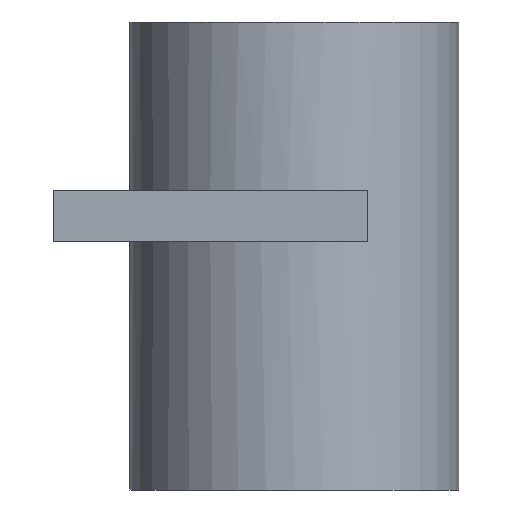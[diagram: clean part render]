
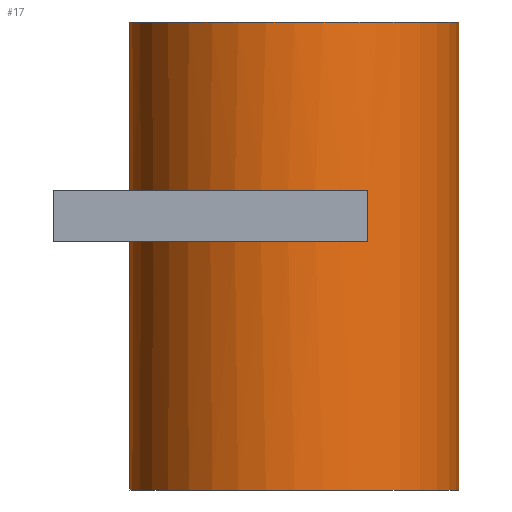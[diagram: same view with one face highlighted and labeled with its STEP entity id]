
A CAD part, left-side view. The second image highlights one B-rep face of the part: STEP entity #17.
In plain terms, the highlighted cylindrical face has radius 2.25 mm (diameter 4.5 mm), a full revolution.
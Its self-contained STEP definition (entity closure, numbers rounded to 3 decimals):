
#17 = ADVANCED_FACE('',(#18,#105),#32,.T.);
#18 = FACE_BOUND('',#19,.T.);
#19 = EDGE_LOOP('',(#20,#50,#77,#78));
#20 = ORIENTED_EDGE('',*,*,#21,.T.);
#21 = EDGE_CURVE('',#22,#24,#26,.T.);
#22 = VERTEX_POINT('',#23);
#23 = CARTESIAN_POINT('',(53.25,-26.,0.));
#24 = VERTEX_POINT('',#25);
#25 = CARTESIAN_POINT('',(53.25,-26.,6.4));
#26 = SEAM_CURVE('',#27,(#31,#43),.PCURVE_S1.);
#27 = LINE('',#28,#29);
#28 = CARTESIAN_POINT('',(53.25,-26.,0.));
#29 = VECTOR('',#30,1.);
#30 = DIRECTION('',(0.,0.,1.));
#31 = PCURVE('',#32,#37);
#32 = CYLINDRICAL_SURFACE('',#33,2.25);
#33 = AXIS2_PLACEMENT_3D('',#34,#35,#36);
#34 = CARTESIAN_POINT('',(51.,-26.,0.));
#35 = DIRECTION('',(0.,0.,1.));
#36 = DIRECTION('',(1.,0.,0.));
#37 = DEFINITIONAL_REPRESENTATION('',(#38),#42);
#38 = LINE('',#39,#40);
#39 = CARTESIAN_POINT('',(6.283,-0.));
#40 = VECTOR('',#41,1.);
#41 = DIRECTION('',(0.,1.));
#42 = ( GEOMETRIC_REPRESENTATION_CONTEXT(2) 
PARAMETRIC_REPRESENTATION_CONTEXT() REPRESENTATION_CONTEXT('2D SPACE',''
  ) );
#43 = PCURVE('',#32,#44);
#44 = DEFINITIONAL_REPRESENTATION('',(#45),#49);
#45 = LINE('',#46,#47);
#46 = CARTESIAN_POINT('',(0.,-0.));
#47 = VECTOR('',#48,1.);
#48 = DIRECTION('',(0.,1.));
#49 = ( GEOMETRIC_REPRESENTATION_CONTEXT(2) 
PARAMETRIC_REPRESENTATION_CONTEXT() REPRESENTATION_CONTEXT('2D SPACE',''
  ) );
#50 = ORIENTED_EDGE('',*,*,#51,.F.);
#51 = EDGE_CURVE('',#24,#24,#52,.T.);
#52 = SURFACE_CURVE('',#53,(#58,#65),.PCURVE_S1.);
#53 = CIRCLE('',#54,2.25);
#54 = AXIS2_PLACEMENT_3D('',#55,#56,#57);
#55 = CARTESIAN_POINT('',(51.,-26.,6.4));
#56 = DIRECTION('',(0.,0.,1.));
#57 = DIRECTION('',(1.,0.,0.));
#58 = PCURVE('',#32,#59);
#59 = DEFINITIONAL_REPRESENTATION('',(#60),#64);
#60 = LINE('',#61,#62);
#61 = CARTESIAN_POINT('',(0.,6.4));
#62 = VECTOR('',#63,1.);
#63 = DIRECTION('',(1.,0.));
#64 = ( GEOMETRIC_REPRESENTATION_CONTEXT(2) 
PARAMETRIC_REPRESENTATION_CONTEXT() REPRESENTATION_CONTEXT('2D SPACE',''
  ) );
#65 = PCURVE('',#66,#71);
#66 = PLANE('',#67);
#67 = AXIS2_PLACEMENT_3D('',#68,#69,#70);
#68 = CARTESIAN_POINT('',(51.,-26.,6.4));
#69 = DIRECTION('',(0.,0.,1.));
#70 = DIRECTION('',(1.,0.,0.));
#71 = DEFINITIONAL_REPRESENTATION('',(#72),#76);
#72 = CIRCLE('',#73,2.25);
#73 = AXIS2_PLACEMENT_2D('',#74,#75);
#74 = CARTESIAN_POINT('',(0.,0.));
#75 = DIRECTION('',(1.,0.));
#76 = ( GEOMETRIC_REPRESENTATION_CONTEXT(2) 
PARAMETRIC_REPRESENTATION_CONTEXT() REPRESENTATION_CONTEXT('2D SPACE',''
  ) );
#77 = ORIENTED_EDGE('',*,*,#21,.F.);
#78 = ORIENTED_EDGE('',*,*,#79,.T.);
#79 = EDGE_CURVE('',#22,#22,#80,.T.);
#80 = SURFACE_CURVE('',#81,(#86,#93),.PCURVE_S1.);
#81 = CIRCLE('',#82,2.25);
#82 = AXIS2_PLACEMENT_3D('',#83,#84,#85);
#83 = CARTESIAN_POINT('',(51.,-26.,0.));
#84 = DIRECTION('',(0.,0.,1.));
#85 = DIRECTION('',(1.,0.,0.));
#86 = PCURVE('',#32,#87);
#87 = DEFINITIONAL_REPRESENTATION('',(#88),#92);
#88 = LINE('',#89,#90);
#89 = CARTESIAN_POINT('',(0.,0.));
#90 = VECTOR('',#91,1.);
#91 = DIRECTION('',(1.,0.));
#92 = ( GEOMETRIC_REPRESENTATION_CONTEXT(2) 
PARAMETRIC_REPRESENTATION_CONTEXT() REPRESENTATION_CONTEXT('2D SPACE',''
  ) );
#93 = PCURVE('',#94,#99);
#94 = PLANE('',#95);
#95 = AXIS2_PLACEMENT_3D('',#96,#97,#98);
#96 = CARTESIAN_POINT('',(51.,-26.,0.));
#97 = DIRECTION('',(0.,0.,1.));
#98 = DIRECTION('',(1.,0.,0.));
#99 = DEFINITIONAL_REPRESENTATION('',(#100),#104);
#100 = CIRCLE('',#101,2.25);
#101 = AXIS2_PLACEMENT_2D('',#102,#103);
#102 = CARTESIAN_POINT('',(0.,0.));
#103 = DIRECTION('',(1.,0.));
#104 = ( GEOMETRIC_REPRESENTATION_CONTEXT(2) 
PARAMETRIC_REPRESENTATION_CONTEXT() REPRESENTATION_CONTEXT('2D SPACE',''
  ) );
#105 = FACE_BOUND('',#106,.T.);
#106 = EDGE_LOOP('',(#107,#138,#164,#193));
#107 = ORIENTED_EDGE('',*,*,#108,.F.);
#108 = EDGE_CURVE('',#109,#111,#113,.T.);
#109 = VERTEX_POINT('',#110);
#110 = CARTESIAN_POINT('',(52.,-23.984,3.4));
#111 = VERTEX_POINT('',#112);
#112 = CARTESIAN_POINT('',(48.984,-27.,3.4));
#113 = SURFACE_CURVE('',#114,(#119,#126),.PCURVE_S1.);
#114 = CIRCLE('',#115,2.25);
#115 = AXIS2_PLACEMENT_3D('',#116,#117,#118);
#116 = CARTESIAN_POINT('',(51.,-26.,3.4));
#117 = DIRECTION('',(0.,0.,1.));
#118 = DIRECTION('',(1.,0.,-0.));
#119 = PCURVE('',#32,#120);
#120 = DEFINITIONAL_REPRESENTATION('',(#121),#125);
#121 = LINE('',#122,#123);
#122 = CARTESIAN_POINT('',(0.,3.4));
#123 = VECTOR('',#124,1.);
#124 = DIRECTION('',(1.,0.));
#125 = ( GEOMETRIC_REPRESENTATION_CONTEXT(2) 
PARAMETRIC_REPRESENTATION_CONTEXT() REPRESENTATION_CONTEXT('2D SPACE',''
  ) );
#126 = PCURVE('',#127,#132);
#127 = PLANE('',#128);
#128 = AXIS2_PLACEMENT_3D('',#129,#130,#131);
#129 = CARTESIAN_POINT('',(45.8,-27.,3.4));
#130 = DIRECTION('',(0.,0.,1.));
#131 = DIRECTION('',(1.,0.,0.));
#132 = DEFINITIONAL_REPRESENTATION('',(#133),#137);
#133 = CIRCLE('',#134,2.25);
#134 = AXIS2_PLACEMENT_2D('',#135,#136);
#135 = CARTESIAN_POINT('',(5.2,1.));
#136 = DIRECTION('',(1.,0.));
#137 = ( GEOMETRIC_REPRESENTATION_CONTEXT(2) 
PARAMETRIC_REPRESENTATION_CONTEXT() REPRESENTATION_CONTEXT('2D SPACE',''
  ) );
#138 = ORIENTED_EDGE('',*,*,#139,.T.);
#139 = EDGE_CURVE('',#109,#140,#142,.T.);
#140 = VERTEX_POINT('',#141);
#141 = CARTESIAN_POINT('',(52.,-23.984,4.1));
#142 = SURFACE_CURVE('',#143,(#147,#153),.PCURVE_S1.);
#143 = LINE('',#144,#145);
#144 = CARTESIAN_POINT('',(52.,-23.984,0.));
#145 = VECTOR('',#146,1.);
#146 = DIRECTION('',(0.,0.,1.));
#147 = PCURVE('',#32,#148);
#148 = DEFINITIONAL_REPRESENTATION('',(#149),#152);
#149 = B_SPLINE_CURVE_WITH_KNOTS('',1,(#150,#151),.UNSPECIFIED.,.F.,.F.,
  (2,2),(3.33,4.17),.PIECEWISE_BEZIER_KNOTS.);
#150 = CARTESIAN_POINT('',(1.11,3.33));
#151 = CARTESIAN_POINT('',(1.11,4.17));
#152 = ( GEOMETRIC_REPRESENTATION_CONTEXT(2) 
PARAMETRIC_REPRESENTATION_CONTEXT() REPRESENTATION_CONTEXT('2D SPACE',''
  ) );
#153 = PCURVE('',#154,#159);
#154 = PLANE('',#155);
#155 = AXIS2_PLACEMENT_3D('',#156,#157,#158);
#156 = CARTESIAN_POINT('',(52.,-27.,3.4));
#157 = DIRECTION('',(1.,0.,0.));
#158 = DIRECTION('',(0.,0.,1.));
#159 = DEFINITIONAL_REPRESENTATION('',(#160),#163);
#160 = B_SPLINE_CURVE_WITH_KNOTS('',1,(#161,#162),.UNSPECIFIED.,.F.,.F.,
  (2,2),(3.33,4.17),.PIECEWISE_BEZIER_KNOTS.);
#161 = CARTESIAN_POINT('',(-0.07,-3.016));
#162 = CARTESIAN_POINT('',(0.77,-3.016));
#163 = ( GEOMETRIC_REPRESENTATION_CONTEXT(2) 
PARAMETRIC_REPRESENTATION_CONTEXT() REPRESENTATION_CONTEXT('2D SPACE',''
  ) );
#164 = ORIENTED_EDGE('',*,*,#165,.T.);
#165 = EDGE_CURVE('',#140,#166,#168,.T.);
#166 = VERTEX_POINT('',#167);
#167 = CARTESIAN_POINT('',(48.984,-27.,4.1));
#168 = SURFACE_CURVE('',#169,(#174,#181),.PCURVE_S1.);
#169 = CIRCLE('',#170,2.25);
#170 = AXIS2_PLACEMENT_3D('',#171,#172,#173);
#171 = CARTESIAN_POINT('',(51.,-26.,4.1));
#172 = DIRECTION('',(0.,0.,1.));
#173 = DIRECTION('',(1.,0.,-0.));
#174 = PCURVE('',#32,#175);
#175 = DEFINITIONAL_REPRESENTATION('',(#176),#180);
#176 = LINE('',#177,#178);
#177 = CARTESIAN_POINT('',(0.,4.1));
#178 = VECTOR('',#179,1.);
#179 = DIRECTION('',(1.,0.));
#180 = ( GEOMETRIC_REPRESENTATION_CONTEXT(2) 
PARAMETRIC_REPRESENTATION_CONTEXT() REPRESENTATION_CONTEXT('2D SPACE',''
  ) );
#181 = PCURVE('',#182,#187);
#182 = PLANE('',#183);
#183 = AXIS2_PLACEMENT_3D('',#184,#185,#186);
#184 = CARTESIAN_POINT('',(45.8,-27.,4.1));
#185 = DIRECTION('',(0.,0.,1.));
#186 = DIRECTION('',(1.,0.,0.));
#187 = DEFINITIONAL_REPRESENTATION('',(#188),#192);
#188 = CIRCLE('',#189,2.25);
#189 = AXIS2_PLACEMENT_2D('',#190,#191);
#190 = CARTESIAN_POINT('',(5.2,1.));
#191 = DIRECTION('',(1.,0.));
#192 = ( GEOMETRIC_REPRESENTATION_CONTEXT(2) 
PARAMETRIC_REPRESENTATION_CONTEXT() REPRESENTATION_CONTEXT('2D SPACE',''
  ) );
#193 = ORIENTED_EDGE('',*,*,#194,.F.);
#194 = EDGE_CURVE('',#111,#166,#195,.T.);
#195 = SURFACE_CURVE('',#196,(#200,#206),.PCURVE_S1.);
#196 = LINE('',#197,#198);
#197 = CARTESIAN_POINT('',(48.984,-27.,0.));
#198 = VECTOR('',#199,1.);
#199 = DIRECTION('',(0.,0.,1.));
#200 = PCURVE('',#32,#201);
#201 = DEFINITIONAL_REPRESENTATION('',(#202),#205);
#202 = B_SPLINE_CURVE_WITH_KNOTS('',1,(#203,#204),.UNSPECIFIED.,.F.,.F.,
  (2,2),(3.33,4.17),.PIECEWISE_BEZIER_KNOTS.);
#203 = CARTESIAN_POINT('',(3.602,3.33));
#204 = CARTESIAN_POINT('',(3.602,4.17));
#205 = ( GEOMETRIC_REPRESENTATION_CONTEXT(2) 
PARAMETRIC_REPRESENTATION_CONTEXT() REPRESENTATION_CONTEXT('2D SPACE',''
  ) );
#206 = PCURVE('',#207,#212);
#207 = PLANE('',#208);
#208 = AXIS2_PLACEMENT_3D('',#209,#210,#211);
#209 = CARTESIAN_POINT('',(45.8,-27.,3.4));
#210 = DIRECTION('',(0.,1.,0.));
#211 = DIRECTION('',(0.,0.,1.));
#212 = DEFINITIONAL_REPRESENTATION('',(#213),#216);
#213 = B_SPLINE_CURVE_WITH_KNOTS('',1,(#214,#215),.UNSPECIFIED.,.F.,.F.,
  (2,2),(3.33,4.17),.PIECEWISE_BEZIER_KNOTS.);
#214 = CARTESIAN_POINT('',(-0.07,3.184));
#215 = CARTESIAN_POINT('',(0.77,3.184));
#216 = ( GEOMETRIC_REPRESENTATION_CONTEXT(2) 
PARAMETRIC_REPRESENTATION_CONTEXT() REPRESENTATION_CONTEXT('2D SPACE',''
  ) );
